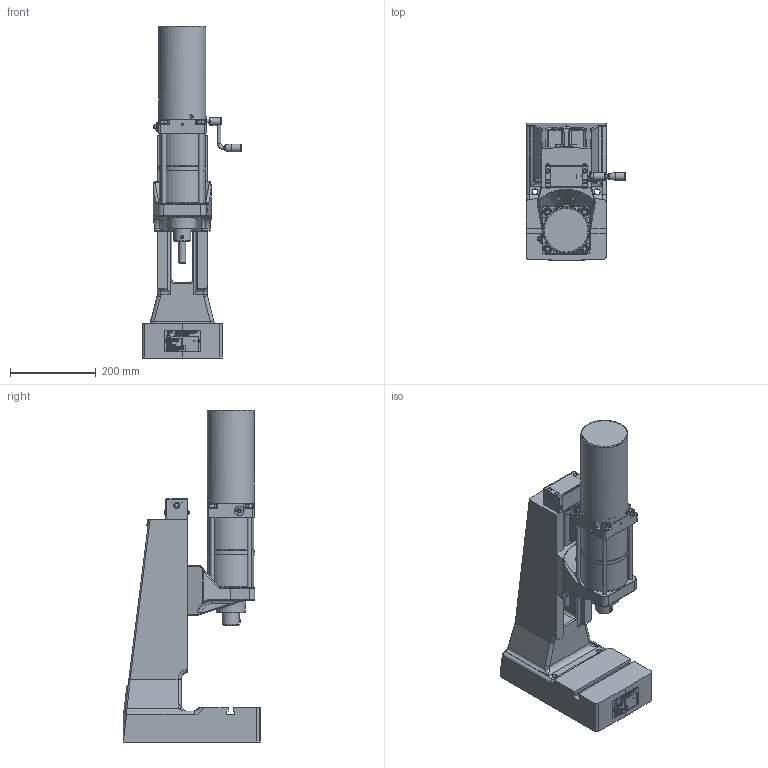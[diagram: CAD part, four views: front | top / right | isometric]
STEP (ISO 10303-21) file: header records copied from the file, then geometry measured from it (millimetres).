
FILE_DESCRIPTION(/* description */ ('Bausatz Ständer T460 N HV-OST'),/* implementation_level */ '2;1');
FILE_NAME(/* name */ 'B:\02_CAD_oeffentlich\CAD_3D_oeffentlich_step\Druckluftpresse\DRP_0850_040_100.stp',/* time_stamp */ '2017-08-03T11:02:42+02:00',/* author */ ('Finsterle'),/* organization */ (''),/* preprocessor_version */ 'ST-DEVELOPER v16.1',/* originating_system */ 'Autodesk Inventor 2016',/* authorisation */ '');
FILE_SCHEMA (('AUTOMOTIVE_DESIGN { 1 0 10303 214 3 1 1 }'));
Products named in the file (5): ENG-000341-1_V; ENG-000996-1_V; HBF-000760; ENG-000755; HBF-001030_V
Assembly tree (5 placements, depth 2):
  HBF-001030_V
    ENG-000341-1_V
    ENG-000996-1_V
    HBF-000760
    ENG-000755  x2
Bounding box: 231.79 x 321.2 x 774.35 mm (x, y, z)
Volume: 9317238.9 mm3; surface area: 1210907.3 mm2
Topology: 6 solids, 29 shells, 7722 faces, 20882 edges, 13629 vertices
Faces by surface type: plane 4617, bspline 2170, cylinder 513, cone 245, torus 101, sphere 76
Full cylindrical faces by diameter (mm): 1 x1, 2 x1, 2.459 x2, 3 x9, 3.242 x7, 3.5 x2, 3.65 x4, 4 x10, 4.134 x1, 4.5 x4, 4.917 x6, 5 x3, 6 x4, 6.2 x4, 6.5 x2, 6.647 x1, 8 x7, 8.4 x1, 8.5 x1, 10 x12, 10.02 x1, 10.106 x2, 10.5 x12, 11.8 x2, 12 x7, 13 x8, 13.5 x4, 14 x3, 14.376 x2, 14.95 x3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
Entity records: 264035 total; most frequent: CARTESIAN_POINT 79469, ORIENTED_EDGE 40448, DIRECTION 28346, EDGE_CURVE 20213, LINE 14012, VECTOR 14012, VERTEX_POINT 13472, EDGE_LOOP 8720
